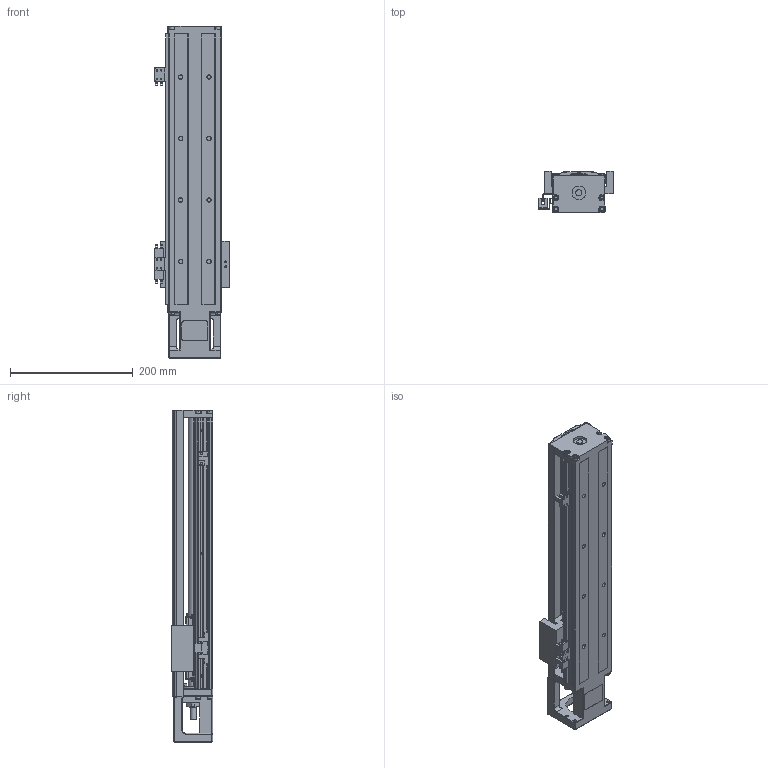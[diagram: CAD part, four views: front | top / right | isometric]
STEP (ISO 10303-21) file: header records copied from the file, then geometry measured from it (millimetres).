
FILE_DESCRIPTION (( 'STEP AP214' ), '1' );
FILE_NAME ('SFKK8610C-440A1-F0CS2.STEP', '2022-04-19T11:36:57', ( '微软用户' ), ( '微软中国' ), 'SwSTEP 2.0', 'SolidWorks 2018', '' );
FILE_SCHEMA (( 'AUTOMOTIVE_DESIGN' ));
Length unit declared in the file: millimetre
Products named in the file (11): SFKK86-CU_440; hexagon socket countersunk head screws gb_GB_FASTENER_SCREWS_HSCHS M3X8-N; SX674嫖萇羲壽; SFKK86-A1-C; 开关固定座：KK-674S2-F; 带盖挡光片：KK-86-S2-D1; SFKK86-LR 憤癹寢耋_440; SFKK8610C-440A1-F0CS2; hexagon socket countersunk head screws gb_GB_FASTENER_SCREWS_HSCHS M4X10-N; SFKK86-F0_KKR86-ZT-P-440; 极限轨道与开关固定座组合_440
Assembly tree (17 placements, depth 3):
  SFKK8610C-440A1-F0CS2
    SFKK86-F0_KKR86-ZT-P-440
    SFKK86-A1-C
    极限轨道与开关固定座组合_440
      SFKK86-LR 憤癹寢耋_440
      开关固定座：KK-674S2-F  x2
    SX674嫖萇羲壽  x3
    带盖挡光片：KK-86-S2-D1
    hexagon socket countersunk head screws gb_GB_FASTENER_SCREWS_HSCHS M3X8-N  x2
    SFKK86-CU_440
    hexagon socket countersunk head screws gb_GB_FASTENER_SCREWS_HSCHS M4X10-N  x4
Bounding box: 121.25 x 68 x 540 mm (x, y, z)
Volume: 1417151.1 mm3; surface area: 431418.2 mm2
Topology: 38 solids, 38 shells, 1890 faces, 4827 edges, 3000 vertices
Faces by surface type: plane 921, cylinder 657, cone 216, torus 67, sphere 23, bspline 6
Entity records: 55331 total; most frequent: CARTESIAN_POINT 12685, DIRECTION 8866, ORIENTED_EDGE 8384, EDGE_CURVE 4192, AXIS2_PLACEMENT_3D 3146, VERTEX_POINT 2674, VECTOR 2574, LINE 2574
